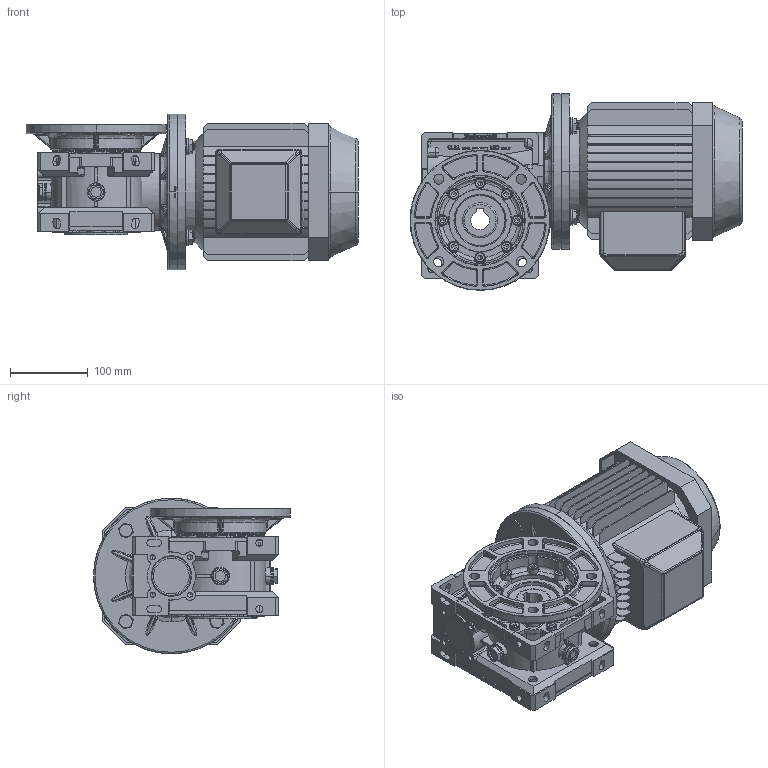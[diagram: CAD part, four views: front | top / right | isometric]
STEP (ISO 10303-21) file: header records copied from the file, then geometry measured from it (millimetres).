
FILE_DESCRIPTION((''),'2;1');
FILE_NAME('F:\Ghirri\3D\MV_V63\MVFU63_B5-90S.stp','2005-06-15T17:18:43',('Administrator'),(''),'Autodesk Inventor 9','Autodesk Inventor 9','');
FILE_SCHEMA(('AUTOMOTIVE_DESIGN { 1 0 10303 214 1 1 1 1 }'));
Length unit declared in the file: millimetre
Products named in the file (19): MVFU63_B5-90S; 4006301-A0; 4006304-A0; TCCE-8X16-ribassata; 4006308-A0; UNI-ISO 6194-1 (4) Tipo4 45 x  65 x  8; Capp-52-7; Guarnizione-tappo-3-8-gas; Tappo-3-8-gas-nero; DIN 3760  AS  (destra) AS - 35 x 62 x 7 - NBR; motori B5 90S; FU_MV63; UNI 5931  (Filetto regolare) M 8 x  20; FM-63-75-D=200; UNI 5739  (Filetto regolare) M10 x 30; UNI 5589  (Filetto regolare) M10; UNI 6593 11 x 21
Assembly tree (46 placements, depth 3):
  MVFU63_B5-90S
    4006301-A0
    4006304-A0
    TCCE-8X16-ribassata  x8
    4006308-A0
    UNI-ISO 6194-1 (4) Tipo4 45 x  65 x  8  x2
    Capp-52-7
    Guarnizione-tappo-3-8-gas  x3
    Tappo-3-8-gas-nero  x3
    DIN 3760  AS  (destra) AS - 35 x 62 x 7 - NBR
    motori B5 90S
    FU_MV63
      FU_MV63
      UNI 5931  (Filetto regolare) M 8 x  20  x8
    FM-63-75-D=200
      FM-63-75-D=200
      UNI 5739  (Filetto regolare) M10 x 30  x4
      UNI 5589  (Filetto regolare) M10  x4
      UNI 6593 11 x 21  x4
Bounding box: 426.5 x 253 x 200 mm (x, y, z)
Volume: 7076322 mm3; surface area: 918340.9 mm2
Topology: 44 solids, 45 shells, 4773 faces, 12401 edges, 7838 vertices
Faces by surface type: plane 1754, cylinder 1510, bspline 1138, cone 253, torus 114, sphere 4
Entity records: 162301 total; most frequent: CARTESIAN_POINT 62374, ORIENTED_EDGE 21764, DIRECTION 19686, EDGE_CURVE 10882, AXIS2_PLACEMENT_3D 7065, VERTEX_POINT 6994, VECTOR 5556, LINE 5556
